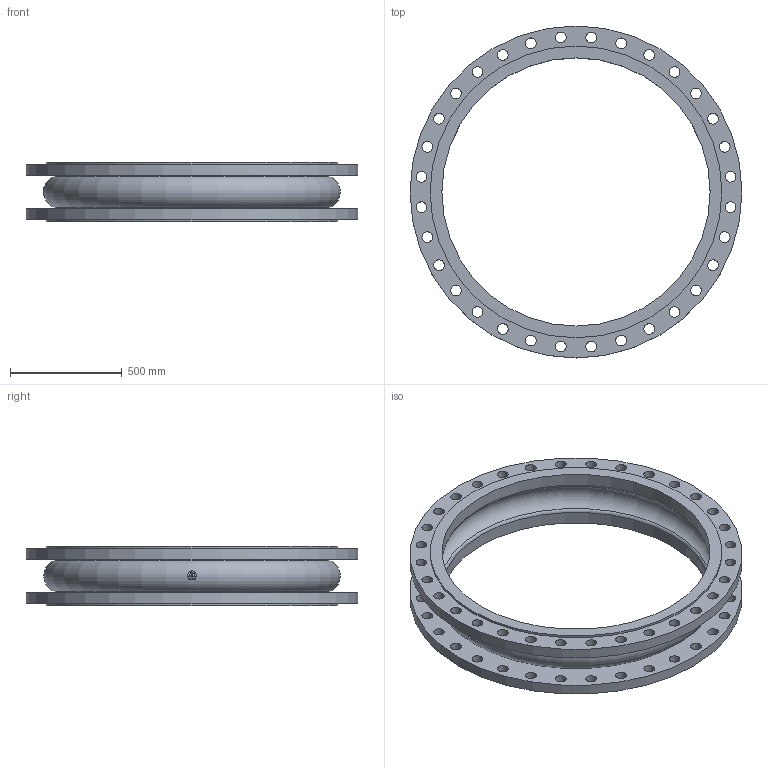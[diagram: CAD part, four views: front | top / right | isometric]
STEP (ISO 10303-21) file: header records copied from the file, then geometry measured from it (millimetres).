
FILE_DESCRIPTION(('STEP AP203'), '1');
FILE_NAME('Êîìïåíñàòîð KMS DN1200 PN16', '', ('UNSPECIFIED'), ('UNSPECIFIED'), 'ASCON STEP Converter 1.6', 'ASCON Math Kernel', '');
FILE_SCHEMA(('CONFIG_CONTROL_DESIGN'));
Length unit declared in the file: millimetre
Bounding box: 1485 x 1485 x 265 mm (x, y, z)
Volume: 64093319.1 mm3; surface area: 5084286.1 mm2
Topology: 1 solids, 1 shells, 99 faces, 264 edges, 174 vertices
Faces by surface type: cylinder 77, plane 13, torus 9
Full cylindrical faces by diameter (mm): 48 x64, 1200 x2, 1305 x2, 1485 x2
Entity records: 5065 total; most frequent: CARTESIAN_POINT 1702, DIRECTION 518, ORIENTED_EDGE 376, EDGE_LOOP 312, AXIS2_PLACEMENT_3D 252, EDGE_CURVE 188, VERTEX_POINT 174, FACE_BOUND 160
